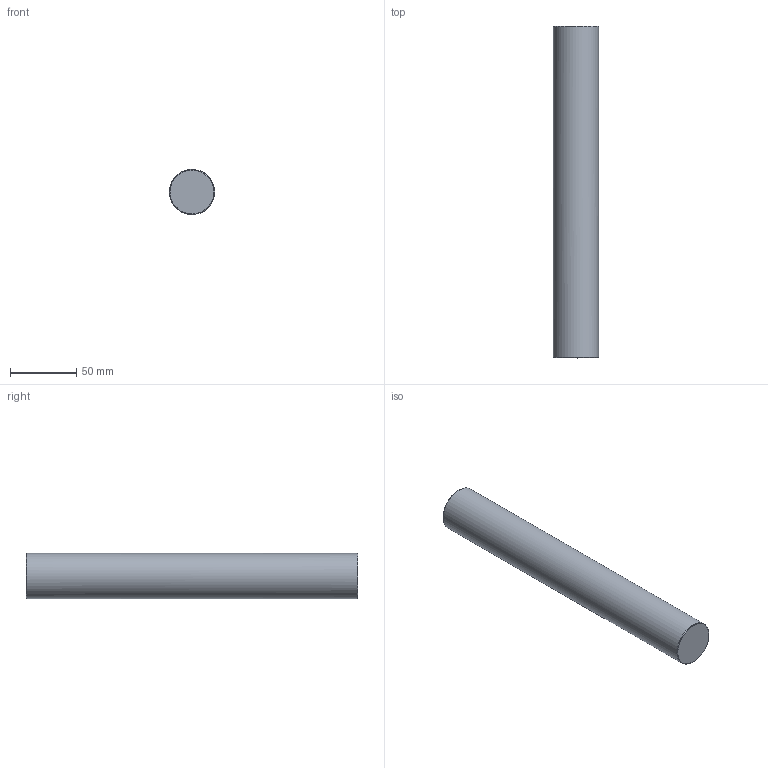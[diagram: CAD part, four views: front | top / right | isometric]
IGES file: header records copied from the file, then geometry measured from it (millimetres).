
Global section: file name: BM00-34D-250L; native system: unknown; preprocessor: unknown; author: unknown; organization: unknown; date: 20231024.133844; units: millimetre
Bounding box: 34 x 250 x 34 mm (x, y, z)
Volume: 227355.4 mm3; surface area: 28503.1 mm2
Topology: 1 solids, 1 shells, 5 faces, 7 edges, 4 vertices
Faces by surface type: bspline 5
